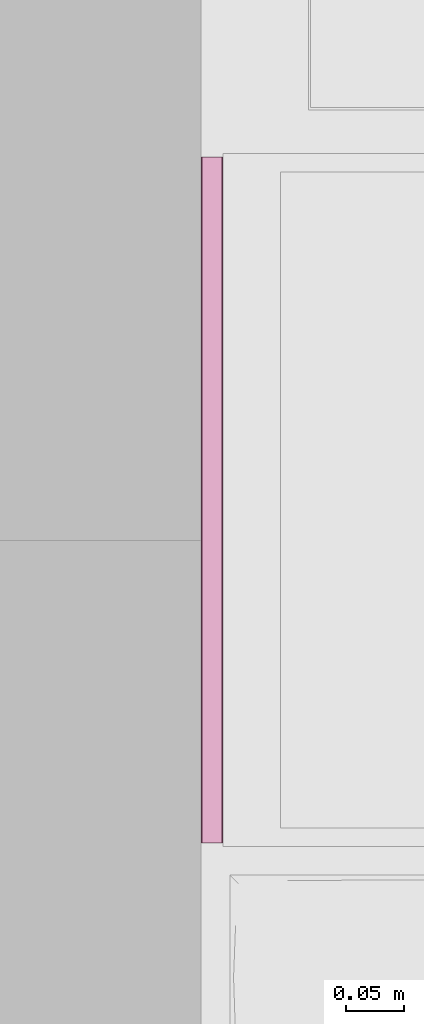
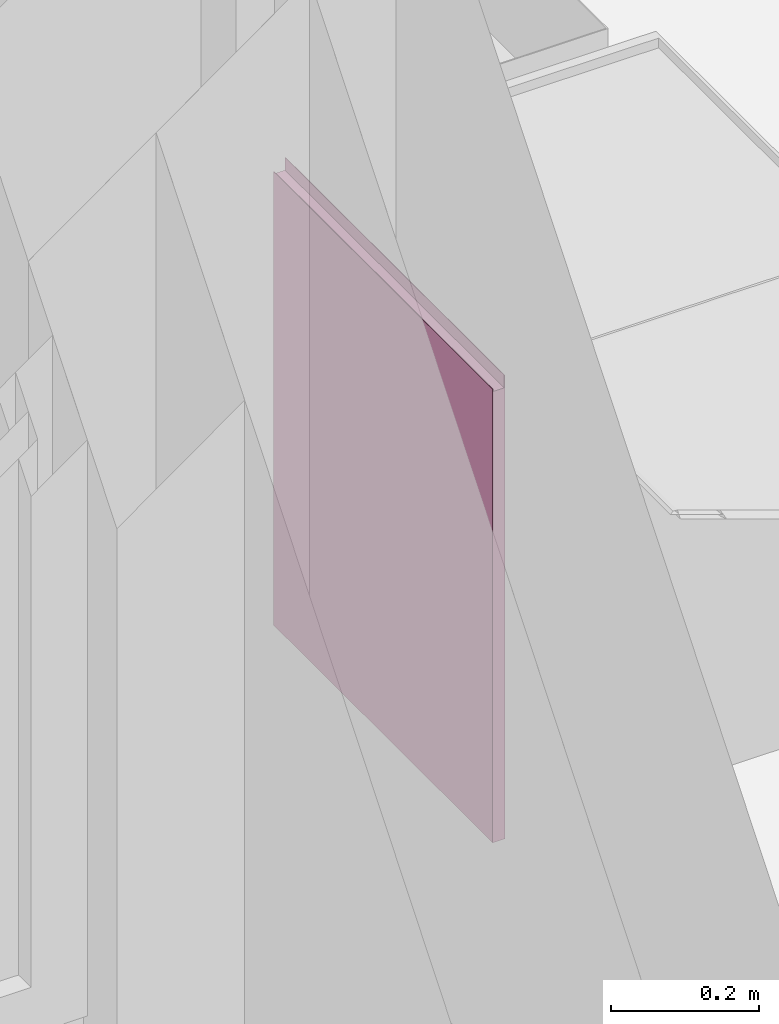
# One storey, part 94 of 125: 1 furnishing.
"""IFC2X3 building model written with IfcOpenShell, lengths in millimetres."""

from ifc_helpers import new_model, entity, si_unit, converted_unit, direction, frame, origin, origin_2d_with_axis, place, context, subcontext, project, spatial, polyline, rectangle, outline, extrude, source, transform, mapped, material, type_object, type_shapes, element, save


model = new_model("IFC2X3")

# Units and contexts
model_context = context("Model", 3, precision=0.01, world=origin(), true_north=direction((6.123233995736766e-17, 1.0)))
plan_context = context("Plan", 3, precision=0.01, world=origin(), true_north=direction((6.123233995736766e-17, 1.0)))
body_context = subcontext(model_context, "Body", "Model", "MODEL_VIEW")
ifc_project = project(units=[si_unit("LENGTHUNIT", "METRE", prefix="MILLI"), converted_unit("PLANEANGLEUNIT", "DEGREE", entity("IfcPlaneAngleMeasure", 0.017453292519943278), si_unit("PLANEANGLEUNIT", "RADIAN"), dimensions=[0, 0, 0, 0, 0, 0, 0]), si_unit("AREAUNIT", "SQUARE_METRE")], contexts=[model_context, plan_context])

# Site, building, storey, space
site_placement = place(None, origin())
site = spatial("IfcSite", under=ifc_project, at=site_placement, Name="Default", CompositionType="ELEMENT")
building_placement = place(site_placement, origin())
building = spatial("IfcBuilding", under=site, at=building_placement, CompositionType="ELEMENT")
storey_placement = place(building_placement, frame((0.0, 0.0, 3125.0)))
storey = spatial("IfcBuildingStorey", under=building, at=storey_placement, Name="2K", CompositionType="ELEMENT", Elevation=3125.0)
space_placement = place(storey_placement, origin())
space = spatial("IfcSpace", under=storey, at=space_placement, Name="2-4.2", CompositionType="ELEMENT", InteriorOrExteriorSpace="INTERNAL")

# Furnishing
ifc_material = material(Name="<Unnamed>")
furniture_type = type_object("IfcFurnitureType", Name="HR_Casework-components_Front-panel_Generic_v1_1x:Default", AssemblyPlace="NOTDEFINED", material=ifc_material)
shared_shape = source(origin(), body_context, "Body", "SweptSolid", [
    extrude(outline(polyline([(-7.0, -9.500000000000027), (15.0, -9.500000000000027), (15.0, -8.499999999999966), (-6.0, -8.499999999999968), (-6.0, 8.499999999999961), (-2.0, 8.499999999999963), (-2.0, 9.500000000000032), (-7.0, 9.500000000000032), (-7.0, -9.500000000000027)])), frame((-297.0, 367.0, 9.499999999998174), z_axis=(1.0, 0.0, 0.0), x_axis=(0.0, 1.0, 0.0)), (0.0, 0.0, 1.0), 593.9999999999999),
    extrude(rectangle(XDim=594.0, YDim=745.0000000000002, at=origin_2d_with_axis()), frame((0.0, -12.500000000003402, 0.0), z_axis=(0.0, 0.0, 1.0), x_axis=(-1.0, 0.0, 0.0)), (0.0, 0.0, 1.0), 19.00000000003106),
])
type_shapes(furniture_type, [shared_shape])
furnishing_placement = place(space_placement, frame((5319.0, 1840.0, 485.0), z_axis=(-1.0, 0.0, 0.0), x_axis=(0.0, -1.0, 0.0)))
element("IfcFurnishingElement", 1, at=furnishing_placement, inside=space, type_object=furniture_type, material=ifc_material, Name="HR_Casework-components_Front-panel_Generic_v1_1x:Default", ObjectType="HR_Casework-components_Front-panel_Generic_v1_1x:Default", context=body_context, shape_type="MappedRepresentation", body=[
    mapped(shared_shape, transform((0.0, 0.0, 0.0), scale=1.0)),
])

save(model, "model.ifc")
